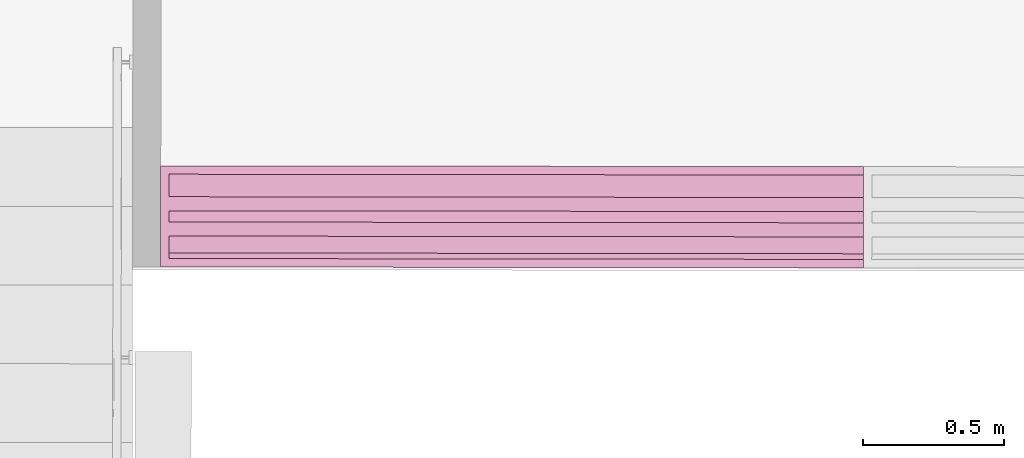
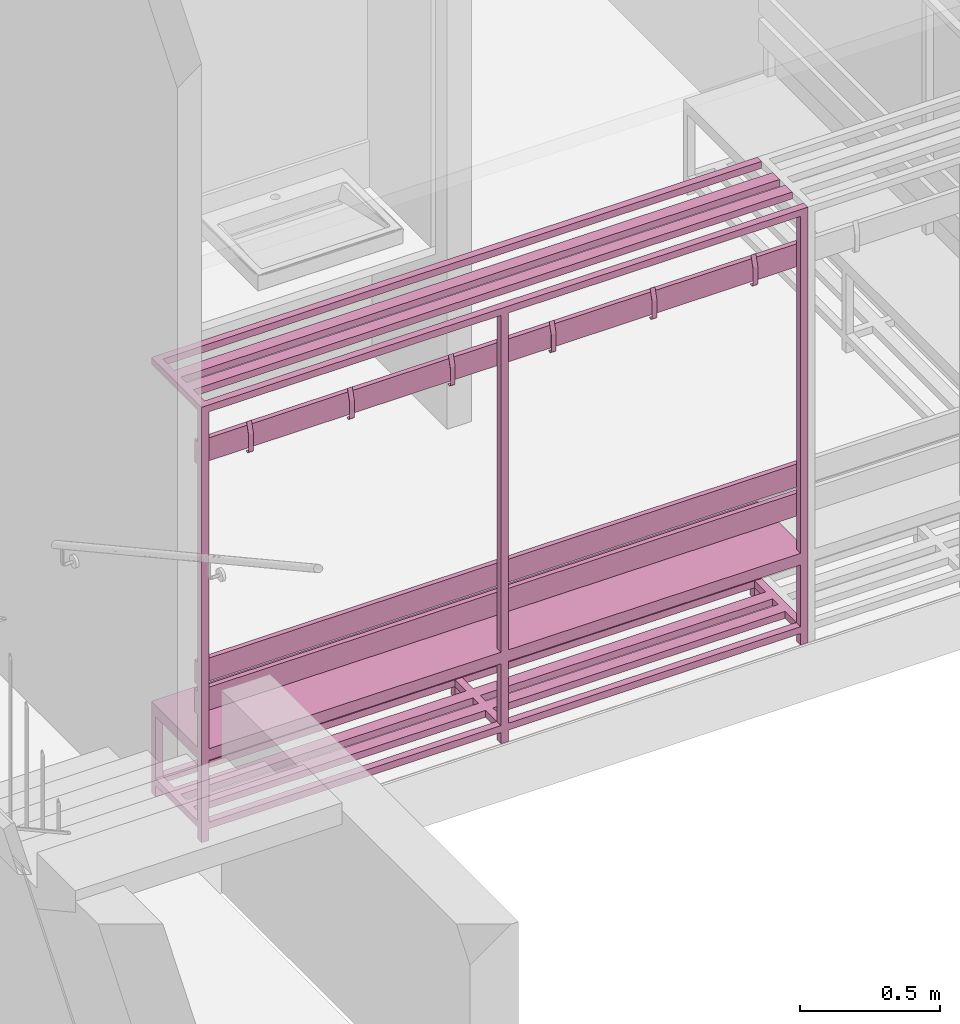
# One storey, part 38 of 43: 1 furnishing.
"""IFC2X3 building model written with IfcOpenShell, lengths in metres."""

from ifc_helpers import new_model, entity, si_unit, converted_unit, derived_unit, direction, frame, frame_2d, origin, origin_2d_with_axis, place, context, subcontext, project, spatial, polyline, circle_curve, parameter, trimmed, segment, composite_curve, rectangle, outline, extrude, source, transform, mapped, material, material_list, type_object, type_shapes, element, save


model = new_model("IFC2X3")

# Units and contexts
model_context = context("Model", 3, precision=1e-05, world=origin(), true_north=direction((6.123233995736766e-17, 1.0)))
body_context = subcontext(model_context, "Body", "Model", "MODEL_VIEW")
ifc_project = project(units=[si_unit("LENGTHUNIT", "METRE"), si_unit("AREAUNIT", "SQUARE_METRE"), converted_unit("PLANEANGLEUNIT", "DEGREE", entity("IfcPlaneAngleMeasure", 0.017453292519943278), si_unit("PLANEANGLEUNIT", "RADIAN"), dimensions=[0, 0, 0, 0, 0, 0, 0]), derived_unit("THERMALTRANSMITTANCEUNIT", [(si_unit("MASSUNIT", "GRAM", prefix="KILO"), 1), (si_unit("THERMODYNAMICTEMPERATUREUNIT", "KELVIN"), -1), (si_unit("TIMEUNIT", "SECOND"), -3)])], contexts=[model_context])

# Site, building, storey
site_placement = place(None, frame((1253.6752467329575, 2072.143113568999, 91.49999999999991), z_axis=(0.0, 0.0, 1.0), x_axis=(0.7237211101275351, 0.6900925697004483, 0.0)))
site = spatial("IfcSite", under=ifc_project, at=site_placement, Name="Surface", CompositionType="ELEMENT")
building_placement = place(site_placement, origin())
building = spatial("IfcBuilding", under=site, at=building_placement, CompositionType="ELEMENT")
storey_placement = place(building_placement, frame((0.0, 0.0, -4.629999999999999)))
storey = spatial("IfcBuildingStorey", under=building, at=storey_placement, Name="rez de rue -1.10m", CompositionType="ELEMENT", Elevation=-4.629999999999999)

# Furnishing
ifc_material_1 = material(Name="Peinture - Grise")
ifc_material_2 = material(Name="<Unnamed>")
ifc_material_3 = material(Name="mat2")
ifc_material_list = material_list([ifc_material_1, ifc_material_2, ifc_material_3])
furniture_type = type_object("IfcFurnitureType", Name="bancpateres:bancpateres", AssemblyPlace="NOTDEFINED", material=ifc_material_list)
shared_shape = source(origin(), body_context, "Body", "SweptSolid", [
    extrude(outline(composite_curve([segment(polyline([(-0.026119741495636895, -0.008725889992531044), (0.04695541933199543, -0.008725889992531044)]), True, "CONTINUOUS"), segment(trimmed(circle_curve(frame_2d((0.04695541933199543, 0.0020852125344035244), x_axis=(-1.0, 0.0)), 0.010811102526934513), [parameter(90.00000000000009)], [parameter(230.9999999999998)], True, "PARAMETER"), True, "CONTINUOUS"), segment(polyline([(0.05375906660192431, 0.010487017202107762), (0.05312974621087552, 0.009709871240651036)]), True, "CONTINUOUS"), segment(trimmed(circle_curve(frame_2d((0.04695541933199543, 0.0020852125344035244), x_axis=(-1.0, 0.0)), 0.009811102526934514), [parameter(90.00000000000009)], [parameter(230.99999999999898)], True, "PARAMETER"), False, "CONTINUOUS"), segment(polyline([(0.04695541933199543, -0.007725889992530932), (-0.025972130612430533, -0.007725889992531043)]), True, "CONTINUOUS"), segment(polyline([(-0.025972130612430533, -0.007725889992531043), (-0.07420942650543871, 0.00683201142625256)]), True, "CONTINUOUS"), segment(polyline([(-0.07420942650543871, 0.00683201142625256), (-0.07449835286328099, 0.005874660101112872)]), True, "CONTINUOUS"), segment(polyline([(-0.07449835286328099, 0.005874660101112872), (-0.026119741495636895, -0.008725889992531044)]), True, "CONTINUOUS")], self_intersect=False)), frame((0.3280670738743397, -0.49127411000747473, 6.308572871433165), z_axis=(1.0, 0.0, 0.0), x_axis=(0.0, 0.0, -1.0)), (0.0, 0.0, 1.0), 0.019999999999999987),
    extrude(outline(composite_curve([segment(polyline([(-0.026119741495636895, -0.008725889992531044), (0.04695541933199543, -0.008725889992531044)]), True, "CONTINUOUS"), segment(trimmed(circle_curve(frame_2d((0.04695541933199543, 0.0020852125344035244), x_axis=(-1.0, 0.0)), 0.010811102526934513), [parameter(90.00000000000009)], [parameter(230.9999999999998)], True, "PARAMETER"), True, "CONTINUOUS"), segment(polyline([(0.05375906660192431, 0.010487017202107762), (0.05312974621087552, 0.009709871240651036)]), True, "CONTINUOUS"), segment(trimmed(circle_curve(frame_2d((0.04695541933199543, 0.0020852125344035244), x_axis=(-1.0, 0.0)), 0.009811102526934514), [parameter(90.00000000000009)], [parameter(230.99999999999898)], True, "PARAMETER"), False, "CONTINUOUS"), segment(polyline([(0.04695541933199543, -0.007725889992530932), (-0.025972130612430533, -0.007725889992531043)]), True, "CONTINUOUS"), segment(polyline([(-0.025972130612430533, -0.007725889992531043), (-0.07420942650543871, 0.00683201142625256)]), True, "CONTINUOUS"), segment(polyline([(-0.07420942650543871, 0.00683201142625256), (-0.07449835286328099, 0.005874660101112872)]), True, "CONTINUOUS"), segment(polyline([(-0.07449835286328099, 0.005874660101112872), (-0.026119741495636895, -0.008725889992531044)]), True, "CONTINUOUS")], self_intersect=False)), frame((-0.08793292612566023, -0.49127411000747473, 6.308572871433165), z_axis=(1.0, 0.0, 0.0), x_axis=(0.0, 0.0, -1.0)), (0.0, 0.0, 1.0), 0.020000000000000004),
    extrude(outline(composite_curve([segment(polyline([(-0.026119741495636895, -0.008725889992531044), (0.04695541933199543, -0.008725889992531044)]), True, "CONTINUOUS"), segment(trimmed(circle_curve(frame_2d((0.04695541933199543, 0.0020852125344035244), x_axis=(-1.0, 0.0)), 0.010811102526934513), [parameter(90.00000000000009)], [parameter(230.9999999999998)], True, "PARAMETER"), True, "CONTINUOUS"), segment(polyline([(0.05375906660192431, 0.010487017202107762), (0.05312974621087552, 0.009709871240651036)]), True, "CONTINUOUS"), segment(trimmed(circle_curve(frame_2d((0.04695541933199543, 0.0020852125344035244), x_axis=(-1.0, 0.0)), 0.009811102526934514), [parameter(90.00000000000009)], [parameter(230.99999999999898)], True, "PARAMETER"), False, "CONTINUOUS"), segment(polyline([(0.04695541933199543, -0.007725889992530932), (-0.025972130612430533, -0.007725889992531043)]), True, "CONTINUOUS"), segment(polyline([(-0.025972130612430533, -0.007725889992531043), (-0.07420942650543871, 0.00683201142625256)]), True, "CONTINUOUS"), segment(polyline([(-0.07420942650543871, 0.00683201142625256), (-0.07449835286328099, 0.005874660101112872)]), True, "CONTINUOUS"), segment(polyline([(-0.07449835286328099, 0.005874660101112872), (-0.026119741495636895, -0.008725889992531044)]), True, "CONTINUOUS")], self_intersect=False)), frame((-0.5039329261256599, -0.49127411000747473, 6.308572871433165), z_axis=(1.0, 0.0, 0.0), x_axis=(0.0, 0.0, -1.0)), (0.0, 0.0, 1.0), 0.019999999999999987),
    extrude(outline(composite_curve([segment(polyline([(-0.026119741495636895, -0.008725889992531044), (0.04695541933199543, -0.008725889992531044)]), True, "CONTINUOUS"), segment(trimmed(circle_curve(frame_2d((0.04695541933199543, 0.0020852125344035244), x_axis=(-1.0, 0.0)), 0.010811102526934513), [parameter(90.00000000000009)], [parameter(230.9999999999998)], True, "PARAMETER"), True, "CONTINUOUS"), segment(polyline([(0.05375906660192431, 0.010487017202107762), (0.05312974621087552, 0.009709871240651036)]), True, "CONTINUOUS"), segment(trimmed(circle_curve(frame_2d((0.04695541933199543, 0.0020852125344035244), x_axis=(-1.0, 0.0)), 0.009811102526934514), [parameter(90.00000000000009)], [parameter(230.99999999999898)], True, "PARAMETER"), False, "CONTINUOUS"), segment(polyline([(0.04695541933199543, -0.007725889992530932), (-0.025972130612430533, -0.007725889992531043)]), True, "CONTINUOUS"), segment(polyline([(-0.025972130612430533, -0.007725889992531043), (-0.07420942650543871, 0.00683201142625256)]), True, "CONTINUOUS"), segment(polyline([(-0.07420942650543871, 0.00683201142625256), (-0.07449835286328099, 0.005874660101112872)]), True, "CONTINUOUS"), segment(polyline([(-0.07449835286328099, 0.005874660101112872), (-0.026119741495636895, -0.008725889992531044)]), True, "CONTINUOUS")], self_intersect=False)), frame((-0.9199329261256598, -0.49127411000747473, 6.308572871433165), z_axis=(1.0, 0.0, 0.0), x_axis=(0.0, 0.0, -1.0)), (0.0, 0.0, 1.0), 0.020000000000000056),
    extrude(outline(composite_curve([segment(polyline([(-0.026119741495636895, -0.008725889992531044), (0.04695541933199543, -0.008725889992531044)]), True, "CONTINUOUS"), segment(trimmed(circle_curve(frame_2d((0.04695541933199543, 0.0020852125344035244), x_axis=(-1.0, 0.0)), 0.010811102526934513), [parameter(90.00000000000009)], [parameter(230.9999999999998)], True, "PARAMETER"), True, "CONTINUOUS"), segment(polyline([(0.05375906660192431, 0.010487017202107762), (0.05312974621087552, 0.00970987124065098)]), True, "CONTINUOUS"), segment(trimmed(circle_curve(frame_2d((0.04695541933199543, 0.0020852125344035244), x_axis=(-1.0, 0.0)), 0.009811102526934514), [parameter(90.00000000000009)], [parameter(230.99999999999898)], True, "PARAMETER"), False, "CONTINUOUS"), segment(polyline([(0.04695541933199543, -0.007725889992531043), (-0.025972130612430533, -0.007725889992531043)]), True, "CONTINUOUS"), segment(polyline([(-0.025972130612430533, -0.007725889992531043), (-0.07420942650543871, 0.00683201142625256)]), True, "CONTINUOUS"), segment(polyline([(-0.07420942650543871, 0.00683201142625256), (-0.07449835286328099, 0.005874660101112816)]), True, "CONTINUOUS"), segment(polyline([(-0.07449835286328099, 0.005874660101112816), (-0.026119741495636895, -0.008725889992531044)]), True, "CONTINUOUS")], self_intersect=False)), frame((0.7440670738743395, -0.4912741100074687, 6.308572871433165), z_axis=(1.0, 0.0, 0.0), x_axis=(0.0, 0.0, -1.0)), (0.0, 0.0, 1.0), 0.020000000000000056),
    extrude(outline(composite_curve([segment(polyline([(-0.026119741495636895, -0.008725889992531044), (0.04695541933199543, -0.008725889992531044)]), True, "CONTINUOUS"), segment(trimmed(circle_curve(frame_2d((0.04695541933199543, 0.0020852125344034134), x_axis=(-1.0, 0.0)), 0.010811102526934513), [parameter(90.00000000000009)], [parameter(230.9999999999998)], True, "PARAMETER"), True, "CONTINUOUS"), segment(polyline([(0.05375906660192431, 0.010487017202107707), (0.05312974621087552, 0.009709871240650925)]), True, "CONTINUOUS"), segment(trimmed(circle_curve(frame_2d((0.04695541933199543, 0.0020852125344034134), x_axis=(-1.0, 0.0)), 0.009811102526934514), [parameter(90.00000000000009)], [parameter(230.99999999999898)], True, "PARAMETER"), False, "CONTINUOUS"), segment(polyline([(0.04695541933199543, -0.007725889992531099), (-0.025972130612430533, -0.007725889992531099)]), True, "CONTINUOUS"), segment(polyline([(-0.025972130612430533, -0.007725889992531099), (-0.07420942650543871, 0.0068320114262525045)]), True, "CONTINUOUS"), segment(polyline([(-0.07420942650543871, 0.0068320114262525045), (-0.07449835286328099, 0.005874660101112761)]), True, "CONTINUOUS"), segment(polyline([(-0.07449835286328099, 0.005874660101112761), (-0.026119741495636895, -0.008725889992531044)]), True, "CONTINUOUS")], self_intersect=False)), frame((-1.3359329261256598, -0.49127411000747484, 6.308572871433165), z_axis=(1.0, 0.0, 0.0), x_axis=(0.0, 0.0, -1.0)), (0.0, 0.0, 1.0), 0.020000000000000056),
    extrude(rectangle(XDim=0.3599999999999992, YDim=0.030000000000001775, at=frame_2d((5.412337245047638e-16, -6.774095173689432e-16), x_axis=(1.0, 0.0))), frame((-0.2859329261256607, -0.33000000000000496, 4.679999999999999), z_axis=(0.0, 0.0, 1.0), x_axis=(0.0, 1.0, 0.0)), (0.0, 0.0, 1.0), 0.03),
    extrude(rectangle(XDim=2.499999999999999, YDim=0.020000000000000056, at=origin_2d_with_axis()), frame((-0.2859329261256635, -0.470000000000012, 6.261999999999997), z_axis=(0.0, 0.0, 1.0), x_axis=(-1.0, 0.0, 0.0)), (0.0, 0.0, 1.0), 0.1),
    extrude(rectangle(XDim=2.499999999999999, YDim=0.01999999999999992, at=frame_2d((0.0, 6.765421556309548e-17), x_axis=(1.0, 0.0))), frame((-0.2859329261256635, -0.47000000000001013, 5.300999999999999), z_axis=(0.0, 0.0, 1.0), x_axis=(-1.0, 0.0, 0.0)), (0.0, 0.0, 1.0), 0.09999999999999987),
    extrude(rectangle(XDim=2.499999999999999, YDim=0.020000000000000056, at=origin_2d_with_axis()), frame((-0.2859329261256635, -0.47000000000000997, 5.173999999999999), z_axis=(0.0, 0.0, 1.0), x_axis=(-1.0, 0.0, 0.0)), (0.0, 0.0, 1.0), 0.09999999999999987),
    extrude(rectangle(XDim=0.02999999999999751, YDim=0.030000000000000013, at=frame_2d((0.0, 3.382710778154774e-17), x_axis=(1.0, 0.0))), frame((-0.2859329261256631, -0.495000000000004, 4.629999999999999), z_axis=(0.0, 0.0, 1.0), x_axis=(-1.0, 0.0, 0.0)), (0.0, 0.0, 1.0), 1.9000000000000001),
    extrude(rectangle(XDim=0.02999999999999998, YDim=0.02999999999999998, at=frame_2d((1.734723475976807e-17, -1.734723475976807e-17), x_axis=(1.0, 0.0))), frame((-0.28593292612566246, -0.16500000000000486, 4.629999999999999), z_axis=(0.0, 0.0, 1.0), x_axis=(-1.0, 0.0, 0.0)), (0.0, 0.0, 1.0), 0.38000000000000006),
    extrude(rectangle(XDim=2.499999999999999, YDim=0.1, at=origin_2d_with_axis()), frame((-0.2859329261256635, -0.46000000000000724, 5.009999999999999), z_axis=(0.0, 0.0, 1.0), x_axis=(-1.0, 0.0, 0.0)), (0.0, 0.0, 1.0), 0.019999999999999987),
    extrude(rectangle(XDim=2.499999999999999, YDim=0.1, at=origin_2d_with_axis()), frame((-0.2859329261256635, -0.40000000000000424, 5.009999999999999), z_axis=(0.0, 0.0, 1.0), x_axis=(-1.0, 0.0, 0.0)), (0.0, 0.0, 1.0), 0.019999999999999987),
    extrude(rectangle(XDim=2.499999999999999, YDim=0.10000000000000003, at=frame_2d((0.0, 1.734723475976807e-17), x_axis=(1.0, 0.0))), frame((-0.2859329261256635, -0.3000000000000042, 5.009999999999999), z_axis=(0.0, 0.0, 1.0), x_axis=(-1.0, 0.0, 0.0)), (0.0, 0.0, 1.0), 0.019999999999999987),
    extrude(rectangle(XDim=2.499999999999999, YDim=0.1, at=origin_2d_with_axis()), frame((-0.2859329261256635, -0.20000000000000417, 5.009999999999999), z_axis=(0.0, 0.0, 1.0), x_axis=(-1.0, 0.0, 0.0)), (0.0, 0.0, 1.0), 0.019999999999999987),
    extrude(rectangle(XDim=0.3600000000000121, YDim=0.029999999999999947, at=frame_2d((0.0, 1.3530843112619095e-16), x_axis=(1.0, 0.0))), frame((-1.5209329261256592, -0.3300000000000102, 4.979999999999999), z_axis=(0.0, 0.0, 1.0), x_axis=(0.0, 1.0, 0.0)), (0.0, 0.0, 1.0), 0.030000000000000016),
    extrude(rectangle(XDim=0.36000000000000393, YDim=0.03000000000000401, at=frame_2d((-2.7755575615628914e-17, 0.0), x_axis=(1.0, 0.0))), frame((0.9490670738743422, -0.32999999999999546, 4.979999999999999), z_axis=(0.0, 0.0, 1.0), x_axis=(0.0, 1.0, 0.0)), (0.0, 0.0, 1.0), 0.030000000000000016),
    extrude(rectangle(XDim=2.499999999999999, YDim=0.030000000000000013, at=frame_2d((2.220446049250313e-16, 3.382710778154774e-17), x_axis=(1.0, 0.0))), frame((-0.28593292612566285, -0.4950000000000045, 4.979999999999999), z_axis=(0.0, 0.0, 1.0), x_axis=(-1.0, 0.0, 0.0)), (0.0, 0.0, 1.0), 0.030000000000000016),
    extrude(rectangle(XDim=2.499999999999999, YDim=0.02999999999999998, at=frame_2d((0.0, -1.734723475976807e-17), x_axis=(1.0, 0.0))), frame((-0.2859329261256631, -0.16500000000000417, 4.979999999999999), z_axis=(0.0, 0.0, 1.0), x_axis=(-1.0, 0.0, 0.0)), (0.0, 0.0, 1.0), 0.030000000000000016),
    extrude(rectangle(XDim=0.3600000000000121, YDim=0.030000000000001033, at=frame_2d((0.0, 1.3617579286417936e-16), x_axis=(1.0, 0.0))), frame((-1.5209329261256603, -0.3300000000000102, 4.679999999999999), z_axis=(0.0, 0.0, 1.0), x_axis=(0.0, 1.0, 0.0)), (0.0, 0.0, 1.0), 0.03),
    extrude(rectangle(XDim=0.36000000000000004, YDim=0.029999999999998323, at=frame_2d((0.0, -1.3530843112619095e-16), x_axis=(1.0, 0.0))), frame((0.9490670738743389, -0.3299999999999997, 4.679999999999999), z_axis=(0.0, 0.0, 1.0), x_axis=(0.0, 1.0, 0.0)), (0.0, 0.0, 1.0), 0.03),
    extrude(rectangle(XDim=0.0499999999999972, YDim=2.499999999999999, at=frame_2d((1.734723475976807e-17, 0.0), x_axis=(1.0, 0.0))), frame((-0.2859329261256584, -0.28500000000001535, 4.679999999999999), z_axis=(0.0, 0.0, 1.0), x_axis=(0.0, 1.0, 0.0)), (0.0, 0.0, 1.0), 0.03),
    extrude(rectangle(XDim=0.0499999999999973, YDim=2.499999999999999, at=origin_2d_with_axis()), frame((-0.28593292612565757, -0.3750000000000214, 4.679999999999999), z_axis=(0.0, 0.0, 1.0), x_axis=(0.0, 1.0, 0.0)), (0.0, 0.0, 1.0), 0.03),
    extrude(rectangle(XDim=2.499999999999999, YDim=0.030000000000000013, at=frame_2d((0.0, 3.382710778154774e-17), x_axis=(1.0, 0.0))), frame((-0.2859329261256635, -0.4950000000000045, 4.679999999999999), z_axis=(0.0, 0.0, 1.0), x_axis=(-1.0, 0.0, 0.0)), (0.0, 0.0, 1.0), 0.03),
    extrude(rectangle(XDim=2.499999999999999, YDim=0.02999999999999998, at=frame_2d((0.0, -1.734723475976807e-17), x_axis=(1.0, 0.0))), frame((-0.2859329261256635, -0.16500000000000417, 4.679999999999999), z_axis=(0.0, 0.0, 1.0), x_axis=(-1.0, 0.0, 0.0)), (0.0, 0.0, 1.0), 0.03),
    extrude(rectangle(XDim=0.030000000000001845, YDim=0.030000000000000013, at=frame_2d((0.0, -3.382710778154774e-17), x_axis=(1.0, 0.0))), frame((0.9490670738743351, -0.49500000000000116, 4.629999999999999), z_axis=(0.0, 0.0, 1.0), x_axis=(-1.0, 0.0, 0.0)), (0.0, 0.0, 1.0), 1.9000000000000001),
    extrude(rectangle(XDim=0.03000000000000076, YDim=0.02999999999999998, at=frame_2d((0.0, -1.734723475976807e-17), x_axis=(1.0, 0.0))), frame((0.9490670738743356, -0.16500000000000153, 4.629999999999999), z_axis=(0.0, 0.0, 1.0), x_axis=(-1.0, 0.0, 0.0)), (0.0, 0.0, 1.0), 0.38000000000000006),
    extrude(rectangle(XDim=0.029999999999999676, YDim=0.030000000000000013, at=frame_2d((0.0, -3.382710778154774e-17), x_axis=(1.0, 0.0))), frame((-1.5209329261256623, -0.4950000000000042, 4.629999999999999), z_axis=(0.0, 0.0, 1.0), x_axis=(-1.0, 0.0, 0.0)), (0.0, 0.0, 1.0), 1.9000000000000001),
    extrude(rectangle(XDim=0.029999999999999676, YDim=0.02999999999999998, at=frame_2d((0.0, -1.734723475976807e-17), x_axis=(1.0, 0.0))), frame((-1.520932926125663, -0.16500000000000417, 4.629999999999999), z_axis=(0.0, 0.0, 1.0), x_axis=(-1.0, 0.0, 0.0)), (0.0, 0.0, 1.0), 0.38000000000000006),
    extrude(rectangle(XDim=0.3600000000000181, YDim=0.029999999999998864, at=frame_2d((0.0, 1.3530843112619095e-16), x_axis=(1.0, 0.0))), frame((-1.5209329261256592, -0.3300000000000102, 6.499999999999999), z_axis=(0.0, 0.0, 1.0), x_axis=(0.0, 1.0, 0.0)), (0.0, 0.0, 1.0), 0.029999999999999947),
    extrude(rectangle(XDim=0.04999999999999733, YDim=2.499999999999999, at=frame_2d((1.734723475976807e-17, 0.0), x_axis=(1.0, 0.0))), frame((-0.28593292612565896, -0.28500000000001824, 6.499999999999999), z_axis=(0.0, 0.0, 1.0), x_axis=(0.0, 1.0, 0.0)), (0.0, 0.0, 1.0), 0.029999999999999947),
    extrude(rectangle(XDim=0.0499999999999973, YDim=2.4999999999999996, at=origin_2d_with_axis()), frame((-0.28593292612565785, -0.3750000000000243, 6.499999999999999), z_axis=(0.0, 0.0, 1.0), x_axis=(0.0, 1.0, 0.0)), (0.0, 0.0, 1.0), 0.029999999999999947),
    extrude(rectangle(XDim=2.499999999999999, YDim=0.030000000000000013, at=frame_2d((2.220446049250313e-16, -3.382710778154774e-17), x_axis=(1.0, 0.0))), frame((-0.2859329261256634, -0.4950000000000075, 6.499999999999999), z_axis=(0.0, 0.0, 1.0), x_axis=(-1.0, 0.0, 0.0)), (0.0, 0.0, 1.0), 0.029999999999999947),
    extrude(rectangle(XDim=2.499999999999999, YDim=0.02999999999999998, at=frame_2d((2.220446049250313e-16, -1.734723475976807e-17), x_axis=(1.0, 0.0))), frame((-0.2859329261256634, -0.16500000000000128, 6.499999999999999), z_axis=(0.0, 0.0, 1.0), x_axis=(-1.0, 0.0, 0.0)), (0.0, 0.0, 1.0), 0.029999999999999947),
])
type_shapes(furniture_type, [shared_shape])
furnishing_placement = place(storey_placement, frame((173.96697966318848, -11.542882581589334, -4.629999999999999), z_axis=(0.0, 0.0, 1.0), x_axis=(0.7228702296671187, -0.6909838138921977, 0.0)))
element("IfcFurnishingElement", 1, at=furnishing_placement, inside=storey, type_object=furniture_type, material=ifc_material_list, Name="bancpateres:bancpateres", ObjectType="bancpateres:bancpateres", context=body_context, shape_type="MappedRepresentation", body=[
    mapped(shared_shape, transform((0.0, 0.0, 0.0), scale=1.0)),
])

save(model, "model.ifc")
